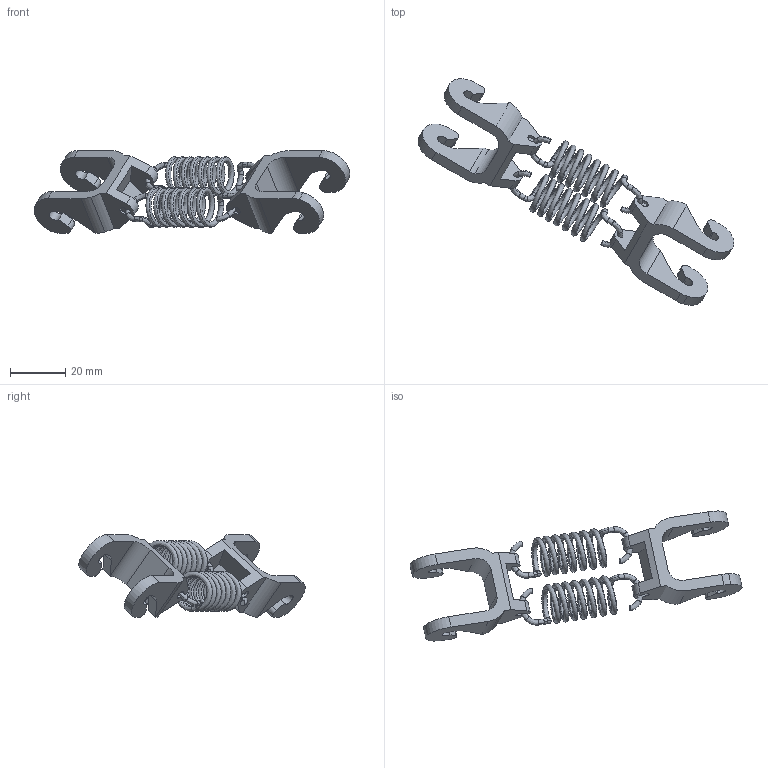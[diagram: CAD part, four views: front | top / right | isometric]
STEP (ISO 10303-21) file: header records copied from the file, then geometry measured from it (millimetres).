
FILE_DESCRIPTION (( 'STEP AP214' ), '1' );
FILE_NAME ('IRB360_8-1130-STD-4D_rev03_LA2_CL_CAD.step', '2025-01-14T07:05:28', ( '' ), ( '' ), 'SwSTEP 2.0', 'SolidWorks 2022', '' );
FILE_SCHEMA (( 'AUTOMOTIVE_DESIGN' ));
Length unit declared in the file: millimetre
Products named in the file (1): IRB360_8-1130-STD-4D_rev03_LA2_CL_CAD
Bounding box: 114.05 x 81.76 x 29.88 mm (x, y, z)
Volume: 11802.8 mm3; surface area: 10699.5 mm2
Topology: 1 solids, 1 shells, 170 faces, 458 edges, 296 vertices
Faces by surface type: cylinder 60, bspline 56, plane 54
Entity records: 11528 total; most frequent: CARTESIAN_POINT 6649, ORIENTED_EDGE 916, DIRECTION 836, EDGE_CURVE 458, AXIS2_PLACEMENT_3D 331, VERTEX_POINT 296, CIRCLE 216, EDGE_LOOP 178
